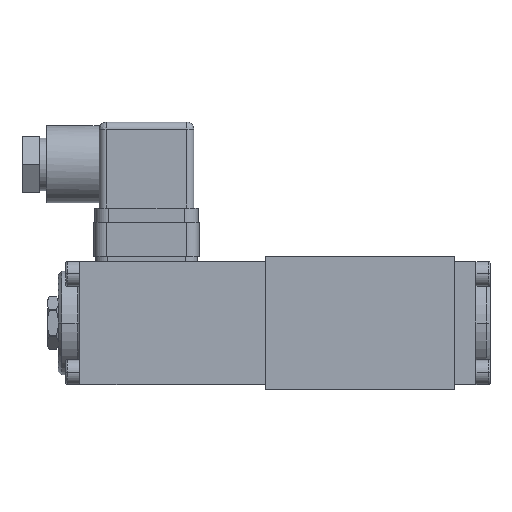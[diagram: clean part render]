
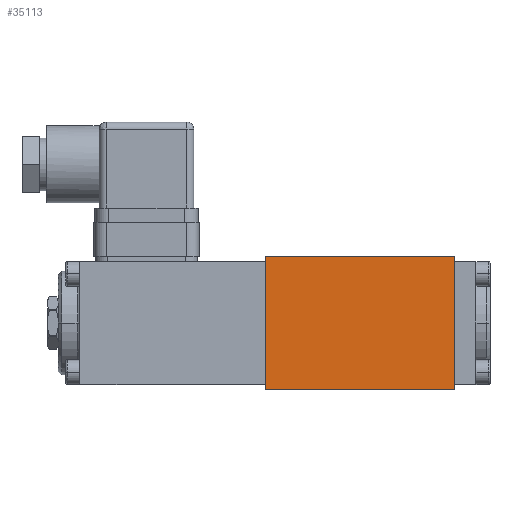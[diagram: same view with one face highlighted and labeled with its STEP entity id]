
A CAD part, top view. The second image highlights one B-rep face of the part: STEP entity #35113.
In plain terms, the highlighted planar face has unit normal (0, 0, 1).
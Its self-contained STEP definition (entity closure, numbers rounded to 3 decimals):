
#1712 = CARTESIAN_POINT ( 'NONE',  ( 54., 19., 19. ) ) ;
#2283 = EDGE_CURVE ( 'NONE', #26270, #18515, #10419, .T. ) ;
#3165 = CARTESIAN_POINT ( 'NONE',  ( 54., -19., 19. ) ) ;
#5519 = CARTESIAN_POINT ( 'NONE',  ( 0., 19., 19. ) ) ;
#5660 = DIRECTION ( 'NONE',  ( 0., -1., 0. ) ) ;
#6466 = EDGE_CURVE ( 'NONE', #26270, #33214, #7087, .T. ) ;
#6495 = ORIENTED_EDGE ( 'NONE', *, *, #32874, .F. ) ;
#6921 = VECTOR ( 'NONE', #5660, 1000. ) ;
#7087 = LINE ( 'NONE', #5519, #6921 ) ;
#7750 = FACE_OUTER_BOUND ( 'NONE', #25100, .T. ) ;
#7872 = ORIENTED_EDGE ( 'NONE', *, *, #2283, .F. ) ;
#9424 = CARTESIAN_POINT ( 'NONE',  ( 0., 19., 19. ) ) ;
#10419 = LINE ( 'NONE', #30612, #30150 ) ;
#11736 = AXIS2_PLACEMENT_3D ( 'NONE', #9424, #30163, #12420 ) ;
#12034 = VERTEX_POINT ( 'NONE', #3165 ) ;
#12420 = DIRECTION ( 'NONE',  ( 0., -1., 0. ) ) ;
#13603 = DIRECTION ( 'NONE',  ( 0., -1., 0. ) ) ;
#13925 = ORIENTED_EDGE ( 'NONE', *, *, #6466, .T. ) ;
#14650 = EDGE_CURVE ( 'NONE', #33214, #12034, #32950, .T. ) ;
#16214 = ORIENTED_EDGE ( 'NONE', *, *, #14650, .T. ) ;
#18515 = VERTEX_POINT ( 'NONE', #26911 ) ;
#24051 = VECTOR ( 'NONE', #28067, 1000. ) ;
#25100 = EDGE_LOOP ( 'NONE', ( #6495, #7872, #13925, #16214 ) ) ;
#25315 = VECTOR ( 'NONE', #13603, 1000. ) ;
#26270 = VERTEX_POINT ( 'NONE', #29041 ) ;
#26911 = CARTESIAN_POINT ( 'NONE',  ( 54., 19., 19. ) ) ;
#27869 = DIRECTION ( 'NONE',  ( 1., 0., 0. ) ) ;
#28067 = DIRECTION ( 'NONE',  ( 1., 0., 0. ) ) ;
#29041 = CARTESIAN_POINT ( 'NONE',  ( 0., 19., 19. ) ) ;
#29188 = CARTESIAN_POINT ( 'NONE',  ( 0., -19., 19. ) ) ;
#29530 = CARTESIAN_POINT ( 'NONE',  ( 0., -19., 19. ) ) ;
#30150 = VECTOR ( 'NONE', #27869, 1000. ) ;
#30163 = DIRECTION ( 'NONE',  ( 0., 0., 1. ) ) ;
#30612 = CARTESIAN_POINT ( 'NONE',  ( 0., 19., 19. ) ) ;
#32874 = EDGE_CURVE ( 'NONE', #18515, #12034, #33313, .T. ) ;
#32950 = LINE ( 'NONE', #29530, #24051 ) ;
#33214 = VERTEX_POINT ( 'NONE', #29188 ) ;
#33313 = LINE ( 'NONE', #1712, #25315 ) ;
#35113 = ADVANCED_FACE ( 'NONE', ( #7750 ), #36179, .T. ) ;
#36179 = PLANE ( 'NONE',  #11736 ) ;
